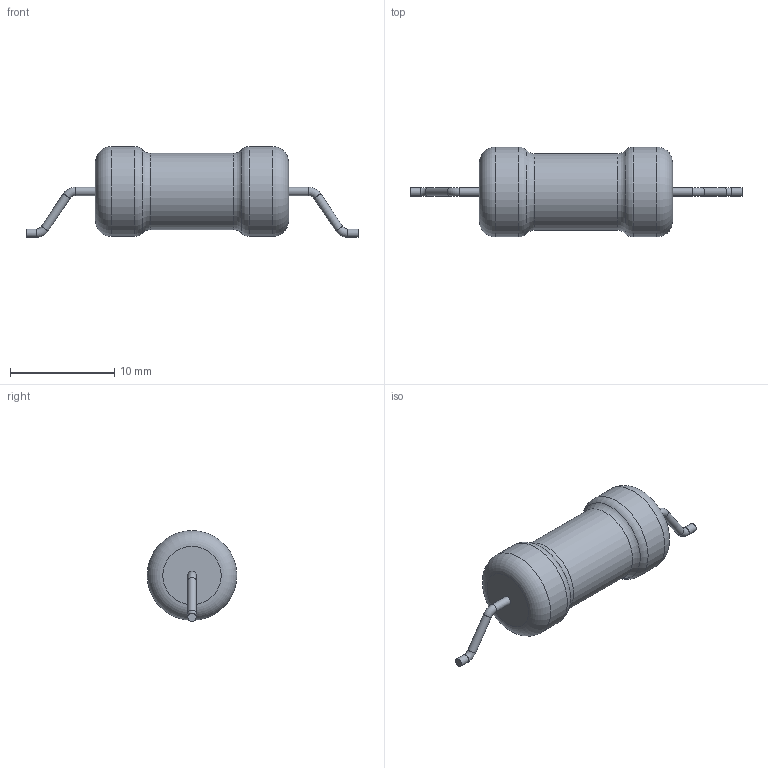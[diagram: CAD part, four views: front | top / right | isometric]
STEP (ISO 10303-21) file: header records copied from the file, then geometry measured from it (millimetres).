
FILE_DESCRIPTION(('STEP AP203'), '1');
FILE_NAME('ﾑ2-29ﾂ-1-ﾍ(2)', '', ('UNSPECIFIED'), ('UNSPECIFIED'), 'ASCON STEP Converter 1.6', 'ASCON Math Kernel', '');
FILE_SCHEMA(('CONFIG_CONTROL_DESIGN'));
Length unit declared in the file: millimetre
Bounding box: 31.8 x 8.6 x 8.7 mm (x, y, z)
Volume: 907 mm3; surface area: 593.3 mm2
Topology: 1 solids, 1 shells, 23 faces, 41 edges, 22 vertices
Faces by surface type: torus 10, cylinder 9, plane 4
Full cylindrical faces by diameter (mm): 0.8 x6, 7.318 x1, 8.6 x2
Entity records: 682 total; most frequent: DIRECTION 92, CARTESIAN_POINT 68, AXIS2_PLACEMENT_3D 46, EDGE_LOOP 44, ORIENTED_EDGE 44, FACE_OUTER_BOUND 38, COLOUR_RGB 24, FILL_AREA_STYLE_COLOUR 24
